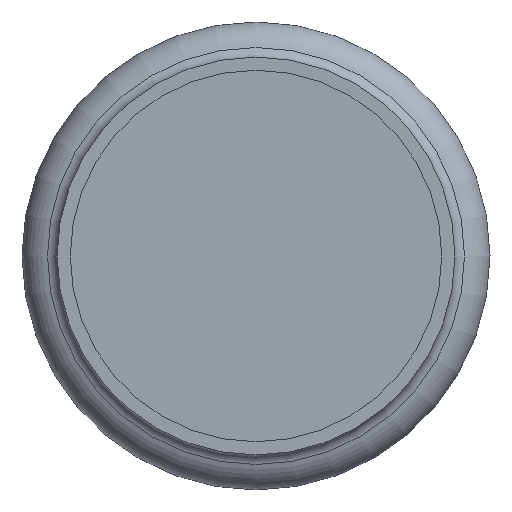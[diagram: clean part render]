
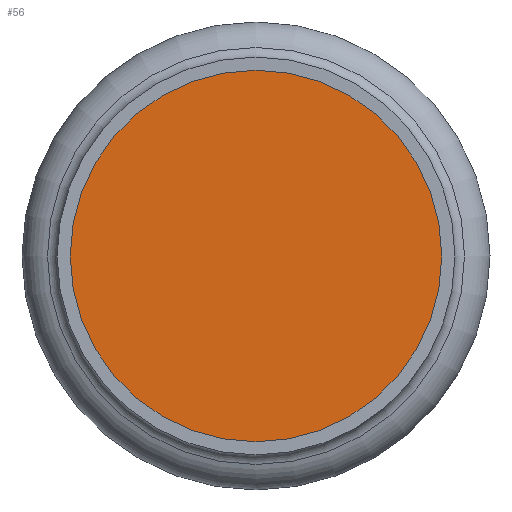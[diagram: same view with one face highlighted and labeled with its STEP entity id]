
A CAD part, front view. The second image highlights one B-rep face of the part: STEP entity #56.
In plain terms, the highlighted planar face has unit normal (0, -1, 0).
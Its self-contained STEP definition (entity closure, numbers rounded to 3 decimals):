
#56=ADVANCED_FACE('',(#99),#101,.T.);
#99=FACE_BOUND('',#100,.T.);
#100=EDGE_LOOP('',(#264));
#101=PLANE('',#102);
#102=AXIS2_PLACEMENT_3D('',#103,#104,#105);
#103=CARTESIAN_POINT('',(0.,8.708,0.));
#104=DIRECTION('',(0.,-1.,0.));
#105=DIRECTION('',(0.,0.,-1.));
#264=ORIENTED_EDGE('',*,*,#301,.T.);
#301=EDGE_CURVE('',#323,#323,#324,.F.);
#323=VERTEX_POINT('',#369);
#324=CIRCLE('',#370,21.15);
#369=CARTESIAN_POINT('',(0.,8.708,21.15));
#370=AXIS2_PLACEMENT_3D('',#371,#372,#373);
#371=CARTESIAN_POINT('',(0.,8.708,0.));
#372=DIRECTION('',(0.,1.,0.));
#373=DIRECTION('',(0.,0.,1.));
